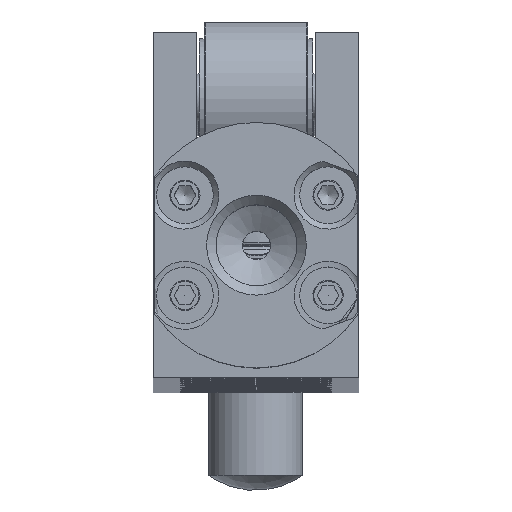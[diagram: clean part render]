
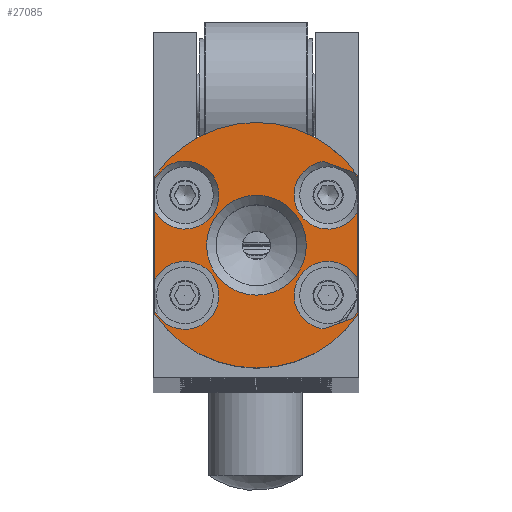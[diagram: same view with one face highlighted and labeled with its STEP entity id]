
A CAD part, top view. The second image highlights one B-rep face of the part: STEP entity #27085.
In plain terms, the highlighted planar face has unit normal (0, 0, 1).
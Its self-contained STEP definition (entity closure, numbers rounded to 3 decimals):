
#1082=FACE_BOUND('',#6824,.T.);
#1419=PLANE('',#31046);
#2356=LINE('',#51685,#3327);
#2357=LINE('',#51687,#3328);
#2358=LINE('',#51692,#3329);
#2365=LINE('',#51741,#3336);
#2368=LINE('',#51762,#3339);
#2369=LINE('',#51763,#3340);
#2370=LINE('',#51764,#3341);
#2373=LINE('',#51778,#3344);
#3327=VECTOR('',#39765,10.);
#3328=VECTOR('',#39766,10.);
#3329=VECTOR('',#39767,10.);
#3336=VECTOR('',#39806,10.);
#3339=VECTOR('',#39823,10.);
#3340=VECTOR('',#39824,10.);
#3341=VECTOR('',#39825,10.);
#3344=VECTOR('',#39842,10.);
#5176=FACE_OUTER_BOUND('',#6823,.T.);
#6823=EDGE_LOOP('',(#24151,#24152,#24153,#24154,#24155,#24156,#24157,#24158,
#24159,#24160,#24161,#24162,#24163,#24164,#24165,#24166));
#6824=EDGE_LOOP('',(#24167));
#9404=CIRCLE('',#31007,13.);
#9409=CIRCLE('',#31016,13.);
#9415=CIRCLE('',#31027,5.283);
#9418=CIRCLE('',#31032,3.6);
#9421=CIRCLE('',#31038,3.6);
#9422=CIRCLE('',#31039,3.6);
#9425=CIRCLE('',#31045,3.6);
#9426=CIRCLE('',#31047,3.6);
#9427=CIRCLE('',#31048,3.6);
#12158=VERTEX_POINT('',#51657);
#12159=VERTEX_POINT('',#51659);
#12163=VERTEX_POINT('',#51674);
#12164=VERTEX_POINT('',#51676);
#12165=VERTEX_POINT('',#51680);
#12166=VERTEX_POINT('',#51681);
#12167=VERTEX_POINT('',#51686);
#12168=VERTEX_POINT('',#51688);
#12174=VERTEX_POINT('',#51710);
#12177=VERTEX_POINT('',#51720);
#12179=VERTEX_POINT('',#51725);
#12180=VERTEX_POINT('',#51732);
#12182=VERTEX_POINT('',#51737);
#12185=VERTEX_POINT('',#51753);
#12187=VERTEX_POINT('',#51758);
#12190=VERTEX_POINT('',#51775);
#12191=VERTEX_POINT('',#51777);
#16141=EDGE_CURVE('',#12159,#12158,#9404,.T.);
#16148=EDGE_CURVE('',#12163,#12164,#9409,.T.);
#16151=EDGE_CURVE('',#12159,#12166,#2356,.T.);
#16152=EDGE_CURVE('',#12167,#12164,#2357,.T.);
#16154=EDGE_CURVE('',#12165,#12168,#2358,.T.);
#16163=EDGE_CURVE('',#12174,#12174,#9415,.T.);
#16169=EDGE_CURVE('',#12179,#12177,#9418,.T.);
#16174=EDGE_CURVE('',#12180,#12182,#2365,.T.);
#16178=EDGE_CURVE('',#12182,#12167,#9421,.T.);
#16180=EDGE_CURVE('',#12168,#12180,#9422,.T.);
#16183=EDGE_CURVE('',#12177,#12187,#2368,.T.);
#16184=EDGE_CURVE('',#12163,#12179,#2369,.T.);
#16185=EDGE_CURVE('',#12185,#12158,#2370,.T.);
#16189=EDGE_CURVE('',#12187,#12185,#9425,.T.);
#16191=EDGE_CURVE('',#12166,#12190,#9426,.T.);
#16192=EDGE_CURVE('',#12190,#12191,#2373,.T.);
#16193=EDGE_CURVE('',#12191,#12165,#9427,.T.);
#24151=ORIENTED_EDGE('',*,*,#16191,.T.);
#24152=ORIENTED_EDGE('',*,*,#16192,.T.);
#24153=ORIENTED_EDGE('',*,*,#16193,.T.);
#24154=ORIENTED_EDGE('',*,*,#16154,.T.);
#24155=ORIENTED_EDGE('',*,*,#16180,.T.);
#24156=ORIENTED_EDGE('',*,*,#16174,.T.);
#24157=ORIENTED_EDGE('',*,*,#16178,.T.);
#24158=ORIENTED_EDGE('',*,*,#16152,.T.);
#24159=ORIENTED_EDGE('',*,*,#16148,.F.);
#24160=ORIENTED_EDGE('',*,*,#16184,.T.);
#24161=ORIENTED_EDGE('',*,*,#16169,.T.);
#24162=ORIENTED_EDGE('',*,*,#16183,.T.);
#24163=ORIENTED_EDGE('',*,*,#16189,.T.);
#24164=ORIENTED_EDGE('',*,*,#16185,.T.);
#24165=ORIENTED_EDGE('',*,*,#16141,.F.);
#24166=ORIENTED_EDGE('',*,*,#16151,.T.);
#24167=ORIENTED_EDGE('',*,*,#16163,.F.);
#27085=ADVANCED_FACE('',(#5176,#1082),#1419,.T.);
#31007=AXIS2_PLACEMENT_3D('',#51661,#39740,#39741);
#31016=AXIS2_PLACEMENT_3D('',#51677,#39760,#39761);
#31027=AXIS2_PLACEMENT_3D('',#51711,#39789,#39790);
#31032=AXIS2_PLACEMENT_3D('',#51726,#39801,#39802);
#31038=AXIS2_PLACEMENT_3D('',#51749,#39816,#39817);
#31039=AXIS2_PLACEMENT_3D('',#51751,#39819,#39820);
#31045=AXIS2_PLACEMENT_3D('',#51772,#39835,#39836);
#31046=AXIS2_PLACEMENT_3D('',#51774,#39838,#39839);
#31047=AXIS2_PLACEMENT_3D('',#51776,#39840,#39841);
#31048=AXIS2_PLACEMENT_3D('',#51779,#39843,#39844);
#39740=DIRECTION('center_axis',(0.,0.,
-1.));
#39741=DIRECTION('ref_axis',(0.,1.,0.));
#39760=DIRECTION('center_axis',(0.,0.,
-1.));
#39761=DIRECTION('ref_axis',(0.,1.,0.));
#39765=DIRECTION('',(0.,1.,0.));
#39766=DIRECTION('',(0.,1.,0.));
#39767=DIRECTION('',(0.,1.,0.));
#39789=DIRECTION('center_axis',(0.,0.,
1.));
#39790=DIRECTION('ref_axis',(-1.,0.,0.));
#39801=DIRECTION('center_axis',(0.,0.,
-1.));
#39802=DIRECTION('ref_axis',(1.,0.,0.));
#39806=DIRECTION('',(0.94,-0.342,0.));
#39816=DIRECTION('center_axis',(0.,0.,
-1.));
#39817=DIRECTION('ref_axis',(-0.342,-0.94,0.));
#39819=DIRECTION('center_axis',(0.,0.,
-1.));
#39820=DIRECTION('ref_axis',(-0.342,-0.94,0.));
#39823=DIRECTION('',(0.,-1.,0.));
#39824=DIRECTION('',(0.,-1.,0.));
#39825=DIRECTION('',(0.,-1.,0.));
#39835=DIRECTION('center_axis',(0.,0.,
-1.));
#39836=DIRECTION('ref_axis',(1.,0.,0.));
#39838=DIRECTION('center_axis',(0.,0.,
1.));
#39839=DIRECTION('ref_axis',(1.,0.,0.));
#39840=DIRECTION('center_axis',(0.,0.,
-1.));
#39841=DIRECTION('ref_axis',(-0.342,0.94,0.));
#39842=DIRECTION('',(-0.94,-0.342,0.));
#39843=DIRECTION('center_axis',(0.,0.,
-1.));
#39844=DIRECTION('ref_axis',(-0.342,0.94,0.));
#51657=CARTESIAN_POINT('',(-10.7,-11.56,476.));
#51659=CARTESIAN_POINT('',(10.8,-11.56,476.));
#51661=CARTESIAN_POINT('Origin',(0.05,-4.25,476.));
#51674=CARTESIAN_POINT('',(-10.7,3.06,476.));
#51676=CARTESIAN_POINT('',(10.8,3.06,476.));
#51677=CARTESIAN_POINT('Origin',(0.05,-4.25,476.));
#51680=CARTESIAN_POINT('',(10.8,-7.855,476.));
#51681=CARTESIAN_POINT('',(10.8,-11.256,476.));
#51685=CARTESIAN_POINT('',(10.8,-4.655,476.));
#51686=CARTESIAN_POINT('',(10.8,2.756,476.));
#51687=CARTESIAN_POINT('',(10.8,-4.655,476.));
#51688=CARTESIAN_POINT('',(10.8,-0.645,476.));
#51692=CARTESIAN_POINT('',(10.8,-4.655,476.));
#51710=CARTESIAN_POINT('',(5.333,-4.25,476.));
#51711=CARTESIAN_POINT('Origin',(0.05,-4.25,476.));
#51720=CARTESIAN_POINT('',(-10.7,-0.645,476.));
#51725=CARTESIAN_POINT('',(-10.7,2.756,476.));
#51726=CARTESIAN_POINT('Origin',(-7.527,1.056,476.));
#51732=CARTESIAN_POINT('',(7.114,4.619,476.));
#51737=CARTESIAN_POINT('',(10.311,3.455,476.));
#51741=CARTESIAN_POINT('',(6.117,4.982,476.));
#51749=CARTESIAN_POINT('Origin',(7.627,1.056,476.));
#51751=CARTESIAN_POINT('Origin',(7.627,1.056,476.));
#51753=CARTESIAN_POINT('',(-10.7,-11.256,476.));
#51758=CARTESIAN_POINT('',(-10.7,-7.855,476.));
#51762=CARTESIAN_POINT('',(-10.7,2.655,476.));
#51763=CARTESIAN_POINT('',(-10.7,2.655,476.));
#51764=CARTESIAN_POINT('',(-10.7,2.655,476.));
#51772=CARTESIAN_POINT('Origin',(-7.527,-9.556,476.));
#51774=CARTESIAN_POINT('Origin',(0.05,2.25,476.));
#51775=CARTESIAN_POINT('',(10.311,-11.955,476.));
#51776=CARTESIAN_POINT('Origin',(7.627,-9.556,476.));
#51777=CARTESIAN_POINT('',(7.114,-13.119,476.));
#51778=CARTESIAN_POINT('',(8.206,-12.721,476.));
#51779=CARTESIAN_POINT('Origin',(7.627,-9.556,476.));
